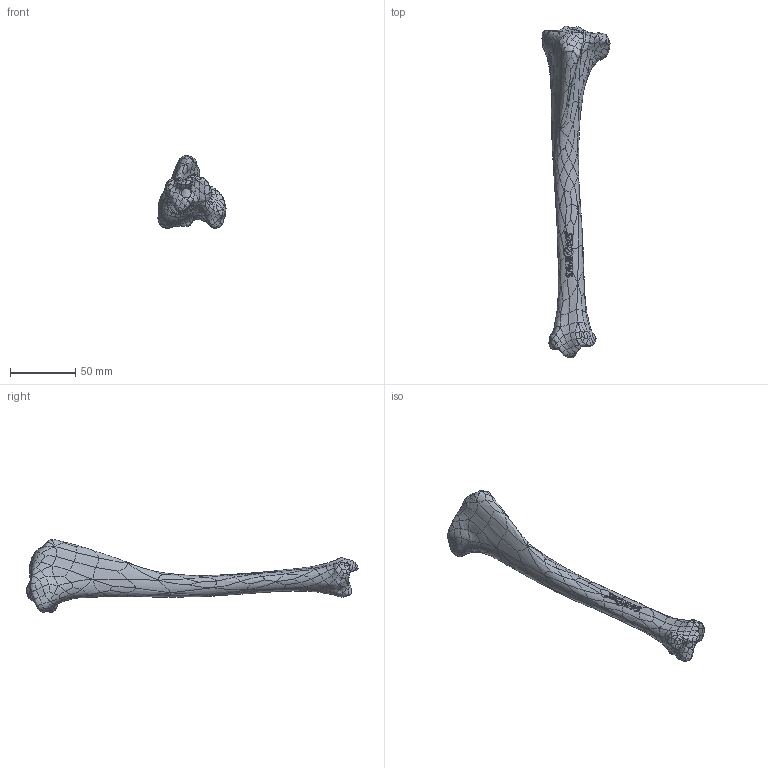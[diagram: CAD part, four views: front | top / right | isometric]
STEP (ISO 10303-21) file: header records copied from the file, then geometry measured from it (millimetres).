
FILE_DESCRIPTION (( 'STEP AP203' ), '1' );
FILE_NAME ('3440.STEP', '2025-06-12T16:05:13', ( '' ), ( '' ), 'SwSTEP 2.0', 'SolidWorks 2024', '' );
FILE_SCHEMA (( 'CONFIG_CONTROL_DESIGN' ));
Products named in the file (1): 3440
Bounding box: 52.2 x 254.78 x 55.92 mm (x, y, z)
Volume: 115191.6 mm3; surface area: 21905.7 mm2
Topology: 1 solids, 1 shells, 819 faces, 1822 edges, 1011 vertices
Faces by surface type: bspline 817, plane 2
Entity records: 92370 total; most frequent: CARTESIAN_POINT 80693, ORIENTED_EDGE 3644, EDGE_CURVE 1822, B_SPLINE_CURVE_WITH_KNOTS 1822, VERTEX_POINT 1011, EDGE_LOOP 825, ADVANCED_FACE 819, FACE_OUTER_BOUND 819
